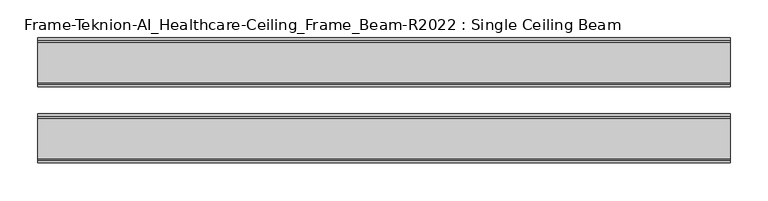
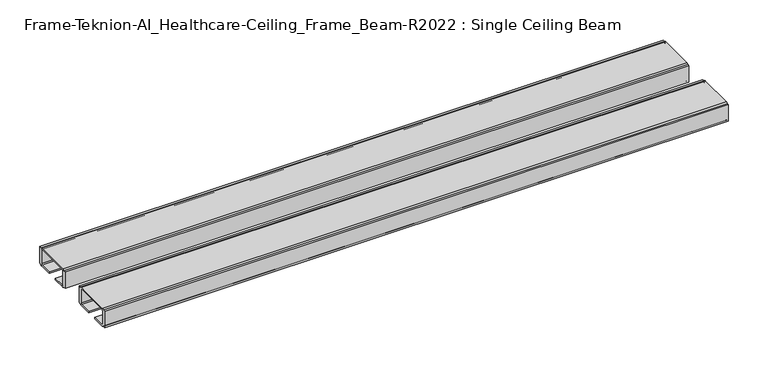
"""IFC4 building model written with IfcOpenShell, lengths in millimetres: furniture geometry, Frame-Teknion-AI_Healthcare-Ceiling_Frame_Beam-R2022 : Single Ceiling Beam."""

import ifcopenshell
import ifcopenshell.guid

model = None  # the IFC model being written
_history = None  # IfcOwnerHistory: only IFC2X3 demands one
_inside = {}  # id of a spatial element -> (the spatial element, [elements in it])
_under = {}  # id of a project, library or spatial element -> (it, [spatial elements below it])
_declared = {}  # id of a project -> (the project, [libraries it declares])
_typed = {}  # id of a type object -> (the type object, [elements of that type])
_made_of = {}  # id of a material, layer set ... -> (it, [elements and type objects made of it])


def new_model(schema):
    """Start an empty IFC model of exactly this schema.

    Asked for "IFC4X3", IfcOpenShell would pick the latest addendum, in which some entities
    have other attributes; the version numbers below select the first issue.
    IFC2X3 requires an IfcOwnerHistory on every rooted entity: one is made here for all.
    """
    global model, _history
    if schema == "IFC4X3":
        model = ifcopenshell.file(schema_version=(4, 3, 0, 0))
    else:
        model = ifcopenshell.file(schema=schema)
    _inside.clear()
    _under.clear()
    _declared.clear()
    _typed.clear()
    _made_of.clear()
    _history = None
    if model.schema == "IFC2X3":
        org = make("IfcOrganization", Name="unknown")
        user = make(
            "IfcPersonAndOrganization",
            ThePerson=make("IfcPerson", FamilyName="unknown"),
            TheOrganization=org,
        )
        app = make(
            "IfcApplication",
            ApplicationDeveloper=org,
            Version="unknown",
            ApplicationFullName="unknown",
            ApplicationIdentifier="unknown",
        )
        _history = make(
            "IfcOwnerHistory",
            OwningUser=user,
            OwningApplication=app,
            ChangeAction="ADDED",
            CreationDate=0,
        )
    return model


def make(cls, **values):
    """One entity of the class cls with the attributes given. An attribute that is None is left unset."""
    return model.create_entity(
        cls, **{name: value for name, value in values.items() if value is not None}
    )


def rooted(cls, **values):
    """An entity with a GlobalId (a new one), such as an element, a storey or a relation."""
    return make(cls, GlobalId=ifcopenshell.guid.new(), OwnerHistory=_history, **values)


def si_unit(unit_type, name, prefix=None):
    """IfcSIUnit, for example si_unit("LENGTHUNIT", "METRE", prefix="MILLI")."""
    return make("IfcSIUnit", UnitType=unit_type, Prefix=prefix, Name=name)


def assignment(units):
    """IfcUnitAssignment: the units of a project."""
    return None if units is None else make("IfcUnitAssignment", Units=units)


def point(xyz):
    """IfcCartesianPoint."""
    return None if xyz is None else make("IfcCartesianPoint", Coordinates=xyz)


def direction(xyz):
    """IfcDirection."""
    return None if xyz is None else make("IfcDirection", DirectionRatios=xyz)


def frame(location, z_axis=None, x_axis=None):
    """IfcAxis2Placement3D, a coordinate frame: its origin and axes. An axis left out is left unset."""
    return make(
        "IfcAxis2Placement3D",
        Location=point(location),
        Axis=direction(z_axis),
        RefDirection=direction(x_axis),
    )


def frame_2d(location, x_axis=None):
    """IfcAxis2Placement2D, a coordinate frame in the plane: its origin and x axis."""
    return make(
        "IfcAxis2Placement2D", Location=point(location), RefDirection=direction(x_axis)
    )


def origin():
    """The frame at (0, 0, 0) with its axes left unset."""
    return frame((0.0, 0.0, 0.0))


def place(relative_to, where):
    """IfcLocalPlacement: puts the frame where relative to a parent placement (None: the world)."""
    return make(
        "IfcLocalPlacement", PlacementRelTo=relative_to, RelativePlacement=where
    )


def context(
    kind, dimensions, precision=None, world=None, true_north=None, identifier=None
):
    """IfcGeometricRepresentationContext, for example the 3D "Model" context."""
    return make(
        "IfcGeometricRepresentationContext",
        ContextIdentifier=identifier,
        ContextType=kind,
        CoordinateSpaceDimension=dimensions,
        Precision=precision,
        WorldCoordinateSystem=world,
        TrueNorth=true_north,
    )


def project(units=None, contexts=None):
    """IfcProject with its units and contexts."""
    return rooted(
        "IfcProject",
        Name="project",
        RepresentationContexts=contexts,
        UnitsInContext=assignment(units),
    )


def spatial(cls, under=None, at=None, **own):
    """A site, building, storey or space (cls), placed at a placement, below another one or the project."""
    s = rooted(cls, ObjectPlacement=at, **own)
    if under is not None:
        _under.setdefault(under.id(), (under, []))[1].append(s)
    return s


def polyline(points):
    """IfcPolyline through the points."""
    return make("IfcPolyline", Points=[point(p) for p in points])


def circle_curve(where, radius):
    """IfcCircle in the frame where."""
    return make("IfcCircle", Position=where, Radius=radius)


def trimmed(basis, trim1, trim2, sense, master):
    """IfcTrimmedCurve: the piece of a basis curve between two trims."""
    return make(
        "IfcTrimmedCurve",
        BasisCurve=basis,
        Trim1=trim1,
        Trim2=trim2,
        SenseAgreement=sense,
        MasterRepresentation=master,
    )


def segment(curve, same_sense, transition):
    """IfcCompositeCurveSegment."""
    return make(
        "IfcCompositeCurveSegment",
        Transition=transition,
        SameSense=same_sense,
        ParentCurve=curve,
    )


def composite_curve(segments, self_intersect=None):
    """IfcCompositeCurve: segments joined end to end."""
    return make("IfcCompositeCurve", Segments=segments, SelfIntersect=self_intersect)


def outline(outer, holes=None, kind="AREA"):
    """IfcArbitraryClosedProfileDef: a profile drawn as a closed curve; with holes, ...WithVoids."""
    if holes is None:
        return make("IfcArbitraryClosedProfileDef", ProfileType=kind, OuterCurve=outer)
    return make(
        "IfcArbitraryProfileDefWithVoids",
        ProfileType=kind,
        OuterCurve=outer,
        InnerCurves=holes,
    )


def extrude(swept, where, along, depth):
    """IfcExtrudedAreaSolid: the profile swept, set in the frame where, extruded along a direction by depth."""
    return make(
        "IfcExtrudedAreaSolid",
        SweptArea=swept,
        Position=where,
        ExtrudedDirection=direction(along),
        Depth=depth,
    )


def shape(context_of_items, identifier, shape_type, items):
    """IfcShapeRepresentation: the items that make up one representation, for example the "Body"."""
    return make(
        "IfcShapeRepresentation",
        ContextOfItems=context_of_items,
        RepresentationIdentifier=identifier,
        RepresentationType=shape_type,
        Items=items,
    )


def source(mapping_origin, context_of_items, identifier, shape_type, items):
    """IfcRepresentationMap: a shape defined once, which mapped items show again and again."""
    return make(
        "IfcRepresentationMap",
        MappingOrigin=mapping_origin,
        MappedRepresentation=shape(context_of_items, identifier, shape_type, items),
    )


def transform(
    local_origin,
    x_axis=None,
    y_axis=None,
    z_axis=None,
    scale=None,
    scale2=None,
    scale3=None,
    uniform=True,
):
    """IfcCartesianTransformationOperator3D, or its non-uniform kind. x_axis, y_axis, z_axis: its Axis1, 2, 3."""
    if uniform:
        return make(
            "IfcCartesianTransformationOperator3D",
            Axis1=direction(x_axis),
            Axis2=direction(y_axis),
            LocalOrigin=point(local_origin),
            Scale=scale,
            Axis3=direction(z_axis),
        )
    return make(
        "IfcCartesianTransformationOperator3DnonUniform",
        Axis1=direction(x_axis),
        Axis2=direction(y_axis),
        LocalOrigin=point(local_origin),
        Scale=scale,
        Axis3=direction(z_axis),
        Scale2=scale2,
        Scale3=scale3,
    )


def mapped(mapping_source, mapping_target):
    """IfcMappedItem: shows the shape of a source again, moved by a transform."""
    return make(
        "IfcMappedItem", MappingSource=mapping_source, MappingTarget=mapping_target
    )


def made_of(thing, what):
    """Note that an element or type object is made of a material, layer set ...; save() writes the relation."""
    if what is not None:
        _made_of.setdefault(what.id(), (what, []))[1].append(thing)
    return thing


def element(
    cls,
    number,
    at=None,
    inside=None,
    cuts=None,
    type_object=None,
    material=None,
    context=None,
    identifier="Body",
    shape_type=None,
    held_by="IfcProductDefinitionShape",
    body=None,
    shapes=None,
    **own,
):
    """One element of the class cls, such as IfcWall. Its Tag is "e" and its number.

    at: its placement. inside: the storey or other place that contains it. cuts: it is an
    opening in that element (IfcRelVoidsElement). A single representation is given by context,
    identifier, shape_type and body (its items); several are given by shapes. held_by: the class
    of the entity that holds the representations. save() writes the other relations.
    """
    e = rooted(cls, Tag="e%d" % number, ObjectPlacement=at, **own)
    if body is not None:
        shapes = [shape(context, identifier, shape_type, body)]
    if shapes is not None:
        e.Representation = make(held_by, Representations=shapes)
    if inside is not None:
        _inside.setdefault(inside.id(), (inside, []))[1].append(e)
    if cuts is not None:
        rooted(
            "IfcRelVoidsElement", RelatingBuildingElement=cuts, RelatedOpeningElement=e
        )
    if type_object is not None:
        _typed.setdefault(type_object.id(), (type_object, []))[1].append(e)
    return made_of(e, material)


def aggregate(whole, parts):
    """IfcRelAggregates: a whole, such as a stair, and the parts it consists of."""
    return rooted("IfcRelAggregates", RelatingObject=whole, RelatedObjects=parts)


def save(model, path):
    """Write the relations noted so far, then the file.

    IfcRelAggregates (storeys below a building ...), IfcRelContainedInSpatialStructure (elements
    in a storey), IfcRelDefinesByType, IfcRelAssociatesMaterial and IfcRelDeclares: one each for
    every whole, place, type object, material and project.
    """
    for whole, parts in _under.values():
        aggregate(whole, parts)
    for where, things in _inside.values():
        rooted(
            "IfcRelContainedInSpatialStructure",
            RelatedElements=things,
            RelatingStructure=where,
        )
    for kind, things in _typed.values():
        rooted("IfcRelDefinesByType", RelatedObjects=things, RelatingType=kind)
    for what, things in _made_of.values():
        rooted("IfcRelAssociatesMaterial", RelatedObjects=things, RelatingMaterial=what)
    for by, libraries in _declared.values():
        rooted("IfcRelDeclares", RelatingContext=by, RelatedDefinitions=libraries)
    model.write(path)


def frame_teknion_ai_healthcare_ceiling_frame_beam_r2022_single_c4decf54(model_context):
    return source(origin(), model_context, "Body", "SweptSolid", [
        extrude(outline(composite_curve([segment(polyline([(-82.1812471, 1573.5046), (-82.1812471, 1598.9045998), (-79.0062502, 1598.9045998), (-79.0062502, 1597.787)]), True, "CONTINUOUS"), segment(trimmed(circle_curve(frame_2d((-76.5932502, 1597.787)), 2.413), [point((-79.0062502, 1597.787))], [point((-76.5932502, 1600.2))], False, "CARTESIAN"), True, "CONTINUOUS"), segment(polyline([(-76.5932502, 1600.2), (-23.4192521, 1600.2)]), True, "CONTINUOUS"), segment(trimmed(circle_curve(frame_2d((-23.4192521, 1597.787)), 2.413), [point((-23.4192521, 1600.2))], [point((-21.0062521, 1597.787))], False, "CARTESIAN"), True, "CONTINUOUS"), segment(polyline([(-21.0062521, 1597.787), (-21.0062521, 1598.9045998), (-17.8312551, 1598.9045998), (-17.8312551, 1573.5046), (-21.0062521, 1573.5046), (-21.0062521, 1574.6129989)]), True, "CONTINUOUS"), segment(trimmed(circle_curve(frame_2d((-23.4192521, 1574.6129989)), 2.413), [point((-21.0062521, 1574.6129989))], [point((-23.4192521, 1572.199999))], False, "CARTESIAN"), True, "CONTINUOUS"), segment(polyline([(-23.4192521, 1572.199999), (-42.0687564, 1572.199999), (-42.0687564, 1574.4859991), (-24.562251, 1574.4859991)]), True, "CONTINUOUS"), segment(trimmed(circle_curve(frame_2d((-24.562251, 1576.0099999)), 1.5240008), [point((-24.562251, 1574.4859991))], [point((-23.0382502, 1576.0099999))], True, "CARTESIAN"), True, "CONTINUOUS"), segment(polyline([(-23.0382502, 1576.0099999), (-23.0382502, 1597.1520009)]), True, "CONTINUOUS"), segment(trimmed(circle_curve(frame_2d((-24.0542492, 1597.1520009)), 1.015999), [point((-23.0382502, 1597.1520009))], [point((-24.0542492, 1598.168))], True, "CARTESIAN"), True, "CONTINUOUS"), segment(polyline([(-24.0542492, 1598.168), (-75.9582531, 1598.168)]), True, "CONTINUOUS"), segment(trimmed(circle_curve(frame_2d((-75.9582531, 1597.1520009)), 1.015999), [point((-75.9582531, 1598.168))], [point((-76.9742521, 1597.1520009))], True, "CARTESIAN"), True, "CONTINUOUS"), segment(polyline([(-76.9742521, 1597.1520009), (-76.9742521, 1576.0099999)]), True, "CONTINUOUS"), segment(trimmed(circle_curve(frame_2d((-75.4502513, 1576.0099999)), 1.5240008), [point((-76.9742521, 1576.0099999))], [point((-75.4502513, 1574.4859991))], True, "CARTESIAN"), True, "CONTINUOUS"), segment(polyline([(-75.4502513, 1574.4859991), (-57.9437458, 1574.4859991), (-57.9437458, 1572.199999), (-76.5932502, 1572.199999)]), True, "CONTINUOUS"), segment(trimmed(circle_curve(frame_2d((-76.5932502, 1574.6129989)), 2.413), [point((-76.5932502, 1572.199999))], [point((-79.0062502, 1574.6129989))], False, "CARTESIAN"), True, "CONTINUOUS"), segment(polyline([(-79.0062502, 1574.6129989), (-79.0062502, 1573.5046), (-82.1812471, 1573.5046)]), True, "CONTINUOUS")], self_intersect=False)), frame((-455.3204, 0.0, 0.0), z_axis=(1.0, 0.0, 0.0), x_axis=(0.0, 1.0, 0.0)), (0.0, 0.0, 1.0), 910.6408),
        extrude(outline(composite_curve([segment(polyline([(1573.5046, 82.1812471), (1598.9045998, 82.1812471), (1598.9045998, 79.0062456), (1597.787, 79.0062456)]), True, "CONTINUOUS"), segment(trimmed(circle_curve(frame_2d((1597.787, 76.5932457)), 2.413), [point((1597.787, 79.0062456))], [point((1600.2, 76.5932457))], False, "CARTESIAN"), True, "CONTINUOUS"), segment(polyline([(1600.2, 76.5932457), (1600.2, 23.4192475)]), True, "CONTINUOUS"), segment(trimmed(circle_curve(frame_2d((1597.787, 23.4192475)), 2.413), [point((1600.2, 23.4192475))], [point((1597.787, 21.0062476))], False, "CARTESIAN"), True, "CONTINUOUS"), segment(polyline([(1597.787, 21.0062476), (1598.9045998, 21.0062476), (1598.9045998, 17.8312506), (1573.5046, 17.8312506), (1573.5046, 21.0062476), (1574.6129989, 21.0062476)]), True, "CONTINUOUS"), segment(trimmed(circle_curve(frame_2d((1574.6129989, 23.4192475)), 2.413), [point((1574.6129989, 21.0062476))], [point((1572.199999, 23.4192475))], False, "CARTESIAN"), True, "CONTINUOUS"), segment(polyline([(1572.199999, 23.4192475), (1572.199999, 42.0687519), (1574.4859991, 42.0687519), (1574.4859991, 24.5622464)]), True, "CONTINUOUS"), segment(trimmed(circle_curve(frame_2d((1576.0099999, 24.5622464)), 1.5240008), [point((1574.4859991, 24.5622464))], [point((1576.0099999, 23.0382456))], True, "CARTESIAN"), True, "CONTINUOUS"), segment(polyline([(1576.0099999, 23.0382456), (1597.1520009, 23.0382456)]), True, "CONTINUOUS"), segment(trimmed(circle_curve(frame_2d((1597.1520009, 24.0542446)), 1.015999), [point((1597.1520009, 23.0382456))], [point((1598.168, 24.0542446))], True, "CARTESIAN"), True, "CONTINUOUS"), segment(polyline([(1598.168, 24.0542446), (1598.168, 75.9582485)]), True, "CONTINUOUS"), segment(trimmed(circle_curve(frame_2d((1597.1520009, 75.9582485)), 1.015999), [point((1598.168, 75.9582485))], [point((1597.1520009, 76.9742476))], True, "CARTESIAN"), True, "CONTINUOUS"), segment(polyline([(1597.1520009, 76.9742476), (1576.0099999, 76.9742476)]), True, "CONTINUOUS"), segment(trimmed(circle_curve(frame_2d((1576.0099999, 75.4502468)), 1.5240008), [point((1576.0099999, 76.9742476))], [point((1574.4859991, 75.4502468))], True, "CARTESIAN"), True, "CONTINUOUS"), segment(polyline([(1574.4859991, 75.4502468), (1574.4859991, 57.9437413), (1572.199999, 57.9437413), (1572.199999, 76.5932457)]), True, "CONTINUOUS"), segment(trimmed(circle_curve(frame_2d((1574.6129989, 76.5932457)), 2.413), [point((1572.199999, 76.5932457))], [point((1574.6129989, 79.0062456))], False, "CARTESIAN"), True, "CONTINUOUS"), segment(polyline([(1574.6129989, 79.0062456), (1573.5046, 79.0062456), (1573.5046, 82.1812471)]), True, "CONTINUOUS")], self_intersect=False)), frame((455.3204, 0.0, 0.0), z_axis=(-1.0, 0.0, 0.0), x_axis=(0.0, 0.0, 1.0)), (0.0, 0.0, 1.0), 910.6408),
    ])


if __name__ == "__main__":
    model = new_model("IFC4")
    model_context = context("Model", 3, world=origin())
    ifc_project = project(units=[si_unit("LENGTHUNIT", "METRE", prefix="MILLI")], contexts=[model_context])
    site = spatial("IfcSite", under=ifc_project)
    building = spatial("IfcBuilding", under=site)
    placement = place(None, origin())
    frame_teknion_ai_healthcare_ceiling_frame_beam_r2022_single_shape = frame_teknion_ai_healthcare_ceiling_frame_beam_r2022_single_c4decf54(model_context)
    element("IfcFurniture", 1, ObjectType="Frame-Teknion-AI_Healthcare-Ceiling_Frame_Beam-R2022 : Single Ceiling Beam", at=placement, inside=building, context=model_context, shape_type="MappedRepresentation", body=[
        mapped(frame_teknion_ai_healthcare_ceiling_frame_beam_r2022_single_shape, transform((0.0, 0.0, 0.0), x_axis=(1.0, 0.0, 0.0), y_axis=(0.0, 1.0, 0.0), z_axis=(0.0, 0.0, 1.0))),
    ])
    save(model, "model.ifc")
